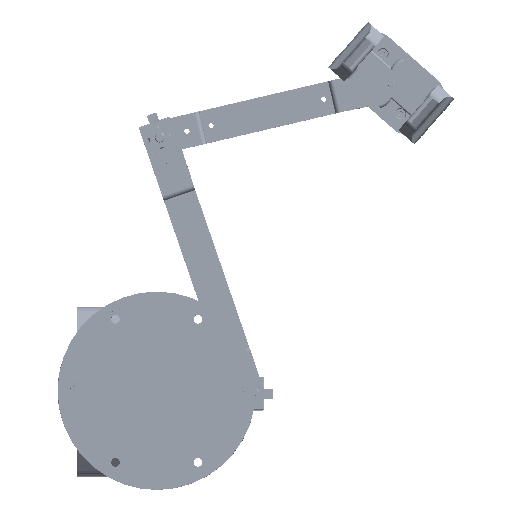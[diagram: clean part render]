
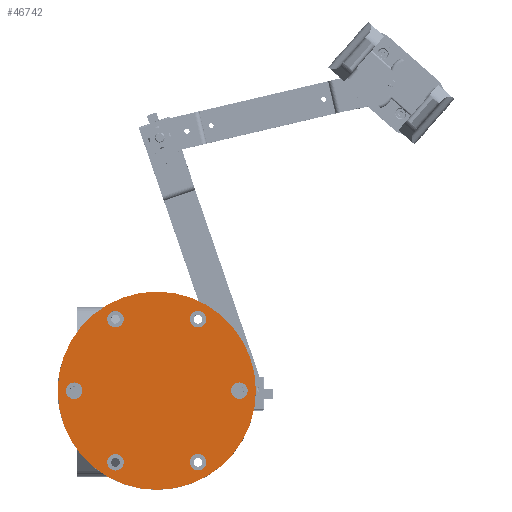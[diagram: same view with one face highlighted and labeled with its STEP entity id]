
A CAD part, top view. The second image highlights one B-rep face of the part: STEP entity #46742.
In plain terms, the highlighted planar face has unit normal (0, 0, 1).
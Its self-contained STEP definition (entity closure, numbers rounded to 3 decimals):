
#2571=FACE_BOUND('',#8112,.T.);
#2572=FACE_BOUND('',#8113,.T.);
#2573=FACE_BOUND('',#8114,.T.);
#2574=FACE_BOUND('',#8115,.T.);
#2575=FACE_BOUND('',#8116,.T.);
#2576=FACE_BOUND('',#8117,.T.);
#3553=PLANE('',#51415);
#5369=FACE_OUTER_BOUND('',#8111,.T.);
#8111=EDGE_LOOP('',(#36518));
#8112=EDGE_LOOP('',(#36519));
#8113=EDGE_LOOP('',(#36520));
#8114=EDGE_LOOP('',(#36521));
#8115=EDGE_LOOP('',(#36522));
#8116=EDGE_LOOP('',(#36523));
#8117=EDGE_LOOP('',(#36524));
#19206=CIRCLE('',#51374,5.);
#19210=CIRCLE('',#51381,5.);
#19214=CIRCLE('',#51388,5.);
#19218=CIRCLE('',#51395,5.);
#19222=CIRCLE('',#51402,5.);
#19226=CIRCLE('',#51409,5.);
#19228=CIRCLE('',#51413,60.);
#21755=VERTEX_POINT('',#71942);
#21759=VERTEX_POINT('',#71955);
#21763=VERTEX_POINT('',#71968);
#21767=VERTEX_POINT('',#71981);
#21771=VERTEX_POINT('',#71994);
#21775=VERTEX_POINT('',#72007);
#21777=VERTEX_POINT('',#72015);
#27185=EDGE_CURVE('',#21755,#21755,#19206,.T.);
#27191=EDGE_CURVE('',#21759,#21759,#19210,.T.);
#27197=EDGE_CURVE('',#21763,#21763,#19214,.T.);
#27203=EDGE_CURVE('',#21767,#21767,#19218,.T.);
#27209=EDGE_CURVE('',#21771,#21771,#19222,.T.);
#27215=EDGE_CURVE('',#21775,#21775,#19226,.T.);
#27218=EDGE_CURVE('',#21777,#21777,#19228,.T.);
#36518=ORIENTED_EDGE('',*,*,#27218,.T.);
#36519=ORIENTED_EDGE('',*,*,#27185,.T.);
#36520=ORIENTED_EDGE('',*,*,#27191,.T.);
#36521=ORIENTED_EDGE('',*,*,#27197,.T.);
#36522=ORIENTED_EDGE('',*,*,#27203,.T.);
#36523=ORIENTED_EDGE('',*,*,#27209,.T.);
#36524=ORIENTED_EDGE('',*,*,#27215,.T.);
#46742=ADVANCED_FACE('',(#5369,#2571,#2572,#2573,#2574,#2575,#2576),#3553,
 .T.);
#51374=AXIS2_PLACEMENT_3D('',#71944,#58865,#58866);
#51381=AXIS2_PLACEMENT_3D('',#71957,#58881,#58882);
#51388=AXIS2_PLACEMENT_3D('',#71970,#58897,#58898);
#51395=AXIS2_PLACEMENT_3D('',#71983,#58913,#58914);
#51402=AXIS2_PLACEMENT_3D('',#71996,#58929,#58930);
#51409=AXIS2_PLACEMENT_3D('',#72009,#58945,#58946);
#51413=AXIS2_PLACEMENT_3D('',#72016,#58954,#58955);
#51415=AXIS2_PLACEMENT_3D('',#72020,#58959,#58960);
#58865=DIRECTION('center_axis',(0.,0.,-1.));
#58866=DIRECTION('ref_axis',(1.,0.,0.));
#58881=DIRECTION('center_axis',(0.,0.,-1.));
#58882=DIRECTION('ref_axis',(1.,0.,0.));
#58897=DIRECTION('center_axis',(0.,0.,-1.));
#58898=DIRECTION('ref_axis',(1.,0.,0.));
#58913=DIRECTION('center_axis',(0.,0.,-1.));
#58914=DIRECTION('ref_axis',(1.,0.,0.));
#58929=DIRECTION('center_axis',(0.,0.,-1.));
#58930=DIRECTION('ref_axis',(1.,0.,0.));
#58945=DIRECTION('center_axis',(0.,0.,-1.));
#58946=DIRECTION('ref_axis',(1.,0.,0.));
#58954=DIRECTION('center_axis',(0.,0.,1.));
#58955=DIRECTION('ref_axis',(1.,0.,0.));
#58959=DIRECTION('center_axis',(0.,0.,1.));
#58960=DIRECTION('ref_axis',(1.,0.,0.));
#71942=CARTESIAN_POINT('',(-55.,0.,30.));
#71944=CARTESIAN_POINT('Origin',(-50.,0.,
30.));
#71955=CARTESIAN_POINT('',(-30.,43.301,30.));
#71957=CARTESIAN_POINT('Origin',(-25.,43.301,30.));
#71968=CARTESIAN_POINT('',(20.,43.301,30.));
#71970=CARTESIAN_POINT('Origin',(25.,43.301,30.));
#71981=CARTESIAN_POINT('',(45.,0.,30.));
#71983=CARTESIAN_POINT('Origin',(50.,0.,30.));
#71994=CARTESIAN_POINT('',(-30.,-43.301,30.));
#71996=CARTESIAN_POINT('Origin',(-25.,-43.301,30.));
#72007=CARTESIAN_POINT('',(20.,-43.301,30.));
#72009=CARTESIAN_POINT('Origin',(25.,-43.301,30.));
#72015=CARTESIAN_POINT('',(-60.,0.,30.));
#72016=CARTESIAN_POINT('Origin',(0.,0.,
30.));
#72020=CARTESIAN_POINT('Origin',(0.,0.,
30.));
